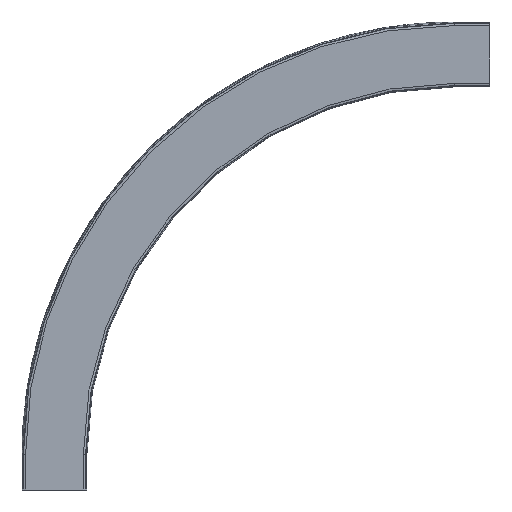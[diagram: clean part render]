
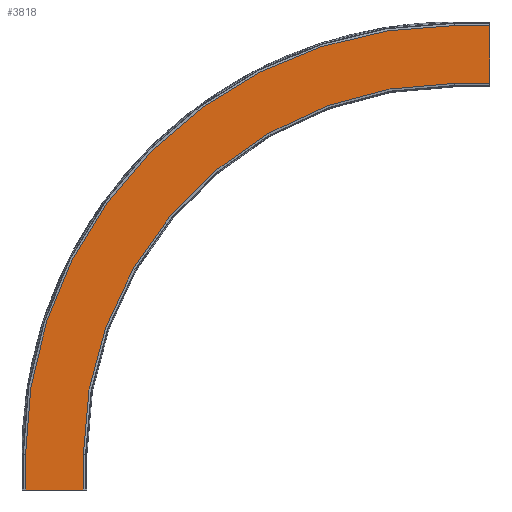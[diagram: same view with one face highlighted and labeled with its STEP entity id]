
A CAD part, front view. The second image highlights one B-rep face of the part: STEP entity #3818.
In plain terms, the highlighted planar face has unit normal (0, -1, 0).
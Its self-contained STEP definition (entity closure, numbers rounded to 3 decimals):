
#193=CIRCLE('',#4052,835.);
#194=CIRCLE('',#4054,965.);
#368=FACE_OUTER_BOUND('',#575,.T.);
#575=EDGE_LOOP('',(#2553,#2554,#2555,#2556,#2557,#2558,#2559,#2560));
#805=LINE('',#5306,#1187);
#809=LINE('',#5313,#1191);
#820=LINE('',#5346,#1202);
#821=LINE('',#5348,#1203);
#822=LINE('',#5349,#1204);
#823=LINE('',#5350,#1205);
#1187=VECTOR('',#4340,10.);
#1191=VECTOR('',#4346,10.);
#1202=VECTOR('',#4377,10.);
#1203=VECTOR('',#4378,10.);
#1204=VECTOR('',#4379,10.);
#1205=VECTOR('',#4380,10.);
#1569=VERTEX_POINT('',#5303);
#1570=VERTEX_POINT('',#5305);
#1572=VERTEX_POINT('',#5311);
#1581=VERTEX_POINT('',#5337);
#1582=VERTEX_POINT('',#5339);
#1583=VERTEX_POINT('',#5343);
#1584=VERTEX_POINT('',#5345);
#1585=VERTEX_POINT('',#5347);
#1949=EDGE_CURVE('',#1570,#1569,#805,.T.);
#1953=EDGE_CURVE('',#1572,#1569,#809,.T.);
#1966=EDGE_CURVE('',#1582,#1581,#193,.T.);
#1968=EDGE_CURVE('',#1583,#1572,#194,.T.);
#1969=EDGE_CURVE('',#1584,#1583,#820,.T.);
#1970=EDGE_CURVE('',#1584,#1585,#821,.T.);
#1971=EDGE_CURVE('',#1585,#1582,#822,.T.);
#1972=EDGE_CURVE('',#1581,#1570,#823,.T.);
#2553=ORIENTED_EDGE('',*,*,#1949,.T.);
#2554=ORIENTED_EDGE('',*,*,#1953,.F.);
#2555=ORIENTED_EDGE('',*,*,#1968,.F.);
#2556=ORIENTED_EDGE('',*,*,#1969,.F.);
#2557=ORIENTED_EDGE('',*,*,#1970,.T.);
#2558=ORIENTED_EDGE('',*,*,#1971,.T.);
#2559=ORIENTED_EDGE('',*,*,#1966,.T.);
#2560=ORIENTED_EDGE('',*,*,#1972,.T.);
#3683=PLANE('',#4053);
#3818=ADVANCED_FACE('',(#368),#3683,.T.);
#4052=AXIS2_PLACEMENT_3D('',#5340,#4370,#4371);
#4053=AXIS2_PLACEMENT_3D('',#5342,#4373,#4374);
#4054=AXIS2_PLACEMENT_3D('',#5344,#4375,#4376);
#4340=DIRECTION('',(0.,0.,1.));
#4346=DIRECTION('',(1.,0.,0.));
#4370=DIRECTION('center_axis',(0.,1.,0.));
#4371=DIRECTION('ref_axis',(-1.,0.,0.));
#4373=DIRECTION('center_axis',(0.,-1.,0.));
#4374=DIRECTION('ref_axis',(-1.,0.,0.));
#4375=DIRECTION('center_axis',(0.,1.,0.));
#4376=DIRECTION('ref_axis',(-1.,0.,0.));
#4377=DIRECTION('',(0.,0.,1.));
#4378=DIRECTION('',(1.,0.,0.));
#4379=DIRECTION('',(0.,0.,1.));
#4380=DIRECTION('',(1.,0.,0.));
#5303=CARTESIAN_POINT('',(1019.001,-72.,1045.));
#5305=CARTESIAN_POINT('',(1019.001,-72.,915.));
#5306=CARTESIAN_POINT('',(1019.001,-72.,949.));
#5311=CARTESIAN_POINT('',(939.001,-72.,1045.));
#5313=CARTESIAN_POINT('',(-554.716,-72.,1045.));
#5337=CARTESIAN_POINT('',(939.001,-72.,915.));
#5339=CARTESIAN_POINT('',(104.001,-72.,80.));
#5340=CARTESIAN_POINT('Origin',(939.001,-72.,80.));
#5342=CARTESIAN_POINT('Origin',(-554.716,-72.,915.));
#5343=CARTESIAN_POINT('',(-25.999,-72.,80.));
#5344=CARTESIAN_POINT('Origin',(939.001,-72.,80.));
#5345=CARTESIAN_POINT('',(-25.999,-72.,0.));
#5346=CARTESIAN_POINT('',(-25.999,-72.,0.));
#5347=CARTESIAN_POINT('',(104.001,-72.,0.));
#5348=CARTESIAN_POINT('',(-25.999,-72.,0.));
#5349=CARTESIAN_POINT('',(104.001,-72.,0.));
#5350=CARTESIAN_POINT('',(-554.716,-72.,915.));
